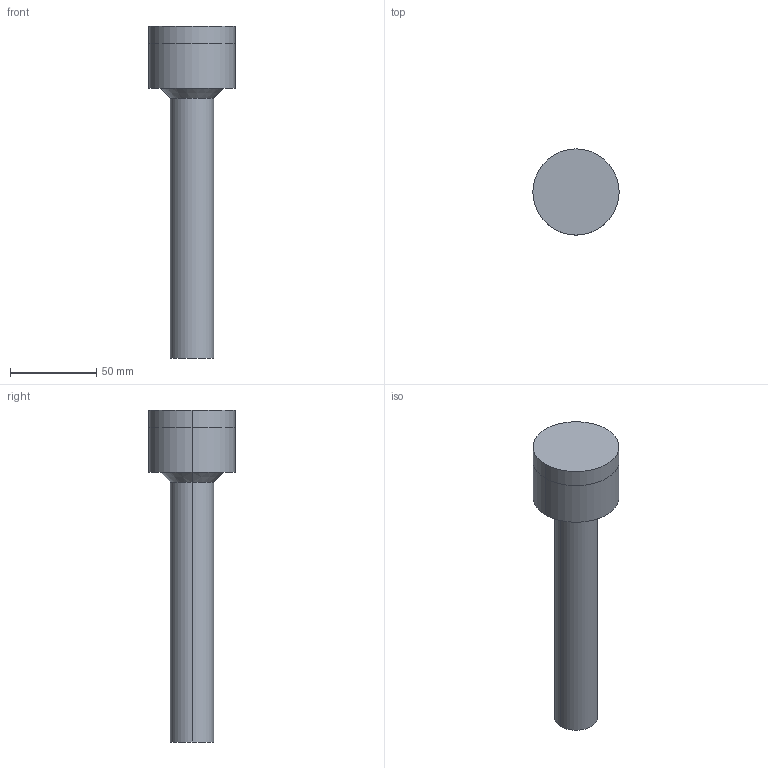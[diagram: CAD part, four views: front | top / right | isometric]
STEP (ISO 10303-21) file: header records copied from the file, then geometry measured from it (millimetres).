
FILE_DESCRIPTION (( 'STEP AP214' ), '1' );
FILE_NAME ('BruyRubio_B4_182,5.STEP', '2020-01-14T10:22:40', ( '' ), ( '' ), 'SwSTEP 2.0', 'SolidWorks 2017', '' );
FILE_SCHEMA (( 'AUTOMOTIVE_DESIGN' ));
Length unit declared in the file: millimetre
Products named in the file (3): B4 182,5_6e22c8; Einbauraum_2d9859; BruyRubio_B4_182,5
Assembly tree (2 placements, depth 2):
  BruyRubio_B4_182,5
    Einbauraum_2d9859
    B4 182,5_6e22c8
Bounding box: 50 x 50 x 192.5 mm (x, y, z)
Volume: 267243.5 mm3; surface area: 46289.3 mm2
Topology: 2 solids, 2 shells, 23 faces, 44 edges, 26 vertices
Faces by surface type: cylinder 8, cone 6, plane 5, torus 2, sphere 2
Entity records: 955 total; most frequent: DIRECTION 130, CARTESIAN_POINT 98, ORIENTED_EDGE 88, AXIS2_PLACEMENT_3D 58, EDGE_CURVE 44, UNCERTAINTY_MEASURE_WITH_UNIT 30, CIRCLE 30, PRESENTATION_LAYER_ASSIGNMENT 27
